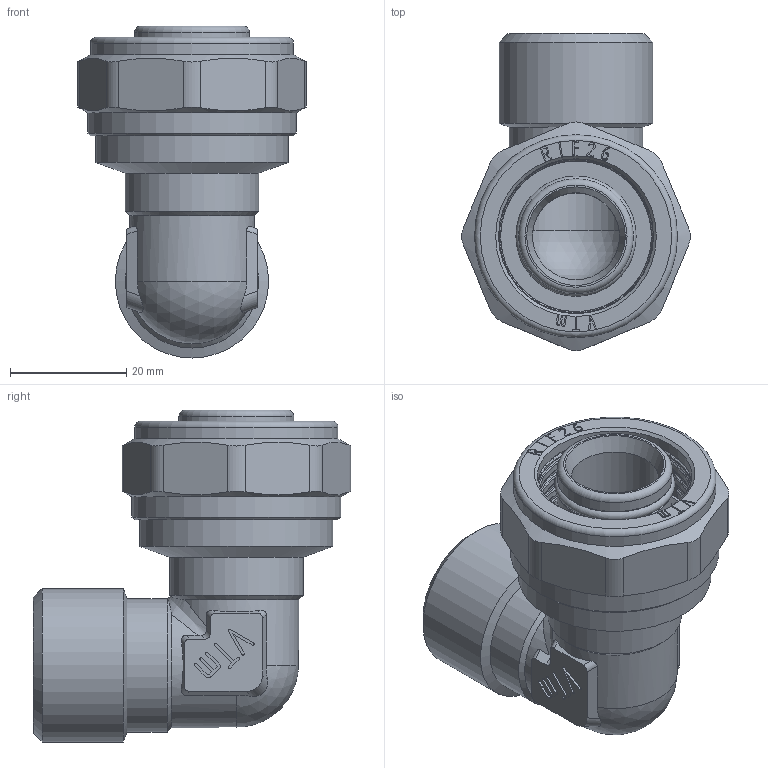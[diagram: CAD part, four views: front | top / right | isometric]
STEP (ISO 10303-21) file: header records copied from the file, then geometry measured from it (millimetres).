
FILE_DESCRIPTION(('STEP AP203'), '1');
FILE_NAME('VTm.353.N.002605', '', ('UNSPECIFIED'), ('UNSPECIFIED'), 'C3D Converter', 'C3D Toolkit', '');
FILE_SCHEMA(('CONFIG_CONTROL_DESIGN'));
Length unit declared in the file: millimetre
Products named in the file (1): ВР.302635.111.000 СБ
Bounding box: 39.39 x 54.69 x 57.22 mm (x, y, z)
Volume: 24633.8 mm3; surface area: 18059.5 mm2
Topology: 1 solids, 1 shells, 462 faces, 1271 edges, 837 vertices
Faces by surface type: extrusion 201, plane 156, cylinder 54, torus 29, cone 19, sphere 2, bspline 1
Full cylindrical faces by diameter (mm): 15 x1, 17 x1, 17.4 x4, 19.8 x5, 20 x2, 23 x2, 26.2 x1, 26.441 x1, 26.7 x1, 30.292 x1, 33.249 x1, 35 x1, 36 x1
Entity records: 17168 total; most frequent: CARTESIAN_POINT 6588, ORIENTED_EDGE 2436, DIRECTION 1513, EDGE_CURVE 1218, VERTEX_POINT 837, VECTOR 767, B_SPLINE_CURVE_WITH_KNOTS 705, LINE 566
